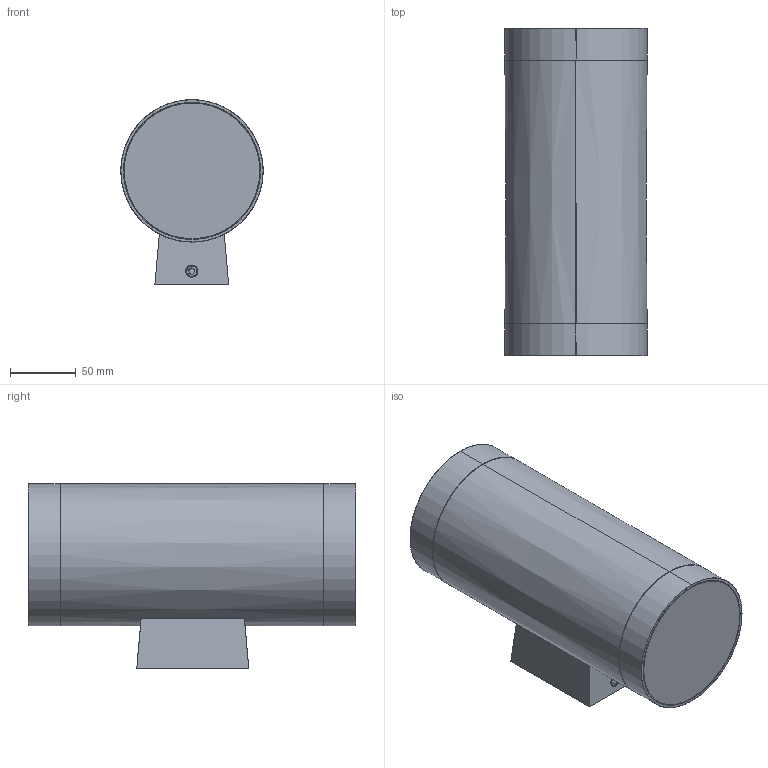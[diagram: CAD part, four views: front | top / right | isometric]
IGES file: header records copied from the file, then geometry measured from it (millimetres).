
Start section: SolidWorks IGES file using analytic representation for surfaces
Global section: file name: \\srvficheros\grupos\DISENYO\DESARROLLO DE PRODUCTO\_3D_WEB\NORI-A2044181\NORI-A2044181.IGS; native system: SolidWorks 2025; preprocessor: SolidWorks 2025; author: d.pons; date: 260115.072729; units: millimetre
Bounding box: 108 x 248.4 x 140.1 mm (x, y, z)
Surface area: 400693 mm2 (no closed solid volume)
Topology: 0 solids, 0 shells, 827 faces, 13824 edges, 13795 vertices
Faces by surface type: revolution 431, bspline 396
